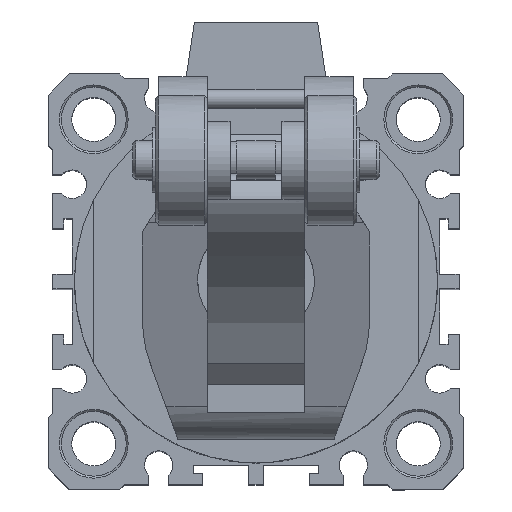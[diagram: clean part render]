
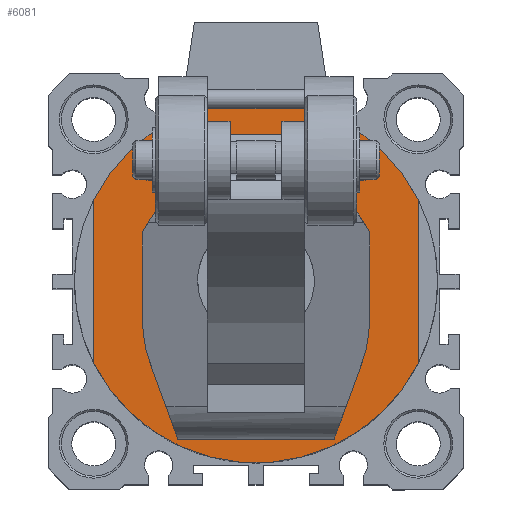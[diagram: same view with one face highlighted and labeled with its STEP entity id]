
A CAD part, top view. The second image highlights one B-rep face of the part: STEP entity #6081.
In plain terms, the highlighted planar face has unit normal (0, 0, 1).
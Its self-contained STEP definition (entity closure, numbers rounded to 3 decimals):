
#4914=CARTESIAN_POINT('',(0.598,18.555,102.));
#4915=VERTEX_POINT('',#4914);
#4916=CARTESIAN_POINT('',(0.598,1.555,102.));
#4917=DIRECTION('',(0.0,0.0,-1.0));
#4918=DIRECTION('',(0.0,1.0,0.0));
#4919=AXIS2_PLACEMENT_3D('',#4916,#4917,#4918);
#4920=CIRCLE('',#4919,17.);
#4921=EDGE_CURVE('',#4915,#4915,#4920,.T.);
#5004=CARTESIAN_POINT('',(25.598,-11.054,102.));
#5005=VERTEX_POINT('',#5004);
#5012=CARTESIAN_POINT('',(-24.402,-11.054,102.));
#5013=VERTEX_POINT('',#5012);
#5014=CARTESIAN_POINT('',(0.598,1.555,102.));
#5015=DIRECTION('',(0.0,0.0,-1.0));
#5016=DIRECTION('',(0.0,1.0,0.0));
#5017=AXIS2_PLACEMENT_3D('',#5014,#5015,#5016);
#5018=CIRCLE('',#5017,28.);
#5019=EDGE_CURVE('',#5005,#5013,#5018,.T.);
#5038=CARTESIAN_POINT('',(-24.402,14.165,102.));
#5039=VERTEX_POINT('',#5038);
#5046=CARTESIAN_POINT('',(25.598,14.165,102.));
#5047=VERTEX_POINT('',#5046);
#5048=CARTESIAN_POINT('',(0.598,1.555,102.));
#5049=DIRECTION('',(0.0,0.0,-1.0));
#5050=DIRECTION('',(0.0,1.0,0.0));
#5051=AXIS2_PLACEMENT_3D('',#5048,#5049,#5050);
#5052=CIRCLE('',#5051,28.);
#5053=EDGE_CURVE('',#5039,#5047,#5052,.T.);
#6057=CARTESIAN_POINT('',(0.598,24.055,102.));
#6058=DIRECTION('',(0.0,0.0,1.0));
#6059=DIRECTION('',(1.0,0.0,0.0));
#6060=AXIS2_PLACEMENT_3D('',#6057,#6058,#6059);
#6061=PLANE('',#6060);
#6062=CARTESIAN_POINT('',(25.598,-11.054,102.));
#6063=DIRECTION('',(0.0,1.0,0.0));
#6064=VECTOR('',#6063,25.219);
#6065=LINE('',#6062,#6064);
#6066=EDGE_CURVE('',#5005,#5047,#6065,.T.);
#6067=ORIENTED_EDGE('',*,*,#6066,.T.);
#6068=ORIENTED_EDGE('',*,*,#5053,.F.);
#6069=CARTESIAN_POINT('',(-24.402,14.165,102.));
#6070=DIRECTION('',(0.0,-1.0,0.0));
#6071=VECTOR('',#6070,25.219);
#6072=LINE('',#6069,#6071);
#6073=EDGE_CURVE('',#5039,#5013,#6072,.T.);
#6074=ORIENTED_EDGE('',*,*,#6073,.T.);
#6075=ORIENTED_EDGE('',*,*,#5019,.F.);
#6076=EDGE_LOOP('',(#6067,#6068,#6074,#6075));
#6077=FACE_OUTER_BOUND('',#6076,.T.);
#6078=ORIENTED_EDGE('',*,*,#4921,.T.);
#6079=EDGE_LOOP('',(#6078));
#6080=FACE_BOUND('',#6079,.T.);
#6081=ADVANCED_FACE('',(#6077,#6080),#6061,.T.);
